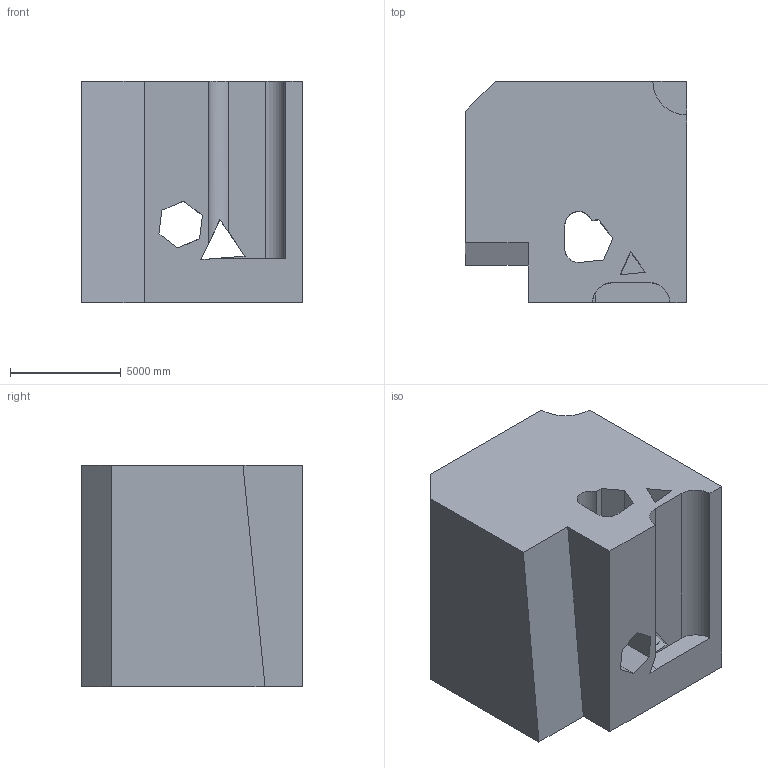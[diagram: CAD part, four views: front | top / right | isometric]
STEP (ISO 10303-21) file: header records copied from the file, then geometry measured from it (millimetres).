
FILE_DESCRIPTION (( 'STEP AP203' ), '1' );
FILE_NAME ('1998.STEP', '2022-08-23T10:26:11', ( 'user' ), ( '' ), 'SwSTEP 2.0', 'SolidWorks 2021', '' );
FILE_SCHEMA (( 'CONFIG_CONTROL_DESIGN' ));
Length unit declared in the file: centimetre
Products named in the file (1): 1998
Bounding box: 10000 x 10000 x 10000 mm (x, y, z)
Volume: 793289284185.8 mm3; surface area: 815219139.3 mm2
Topology: 1 solids, 1 shells, 50 faces, 156 edges, 104 vertices
Faces by surface type: plane 39, cylinder 11
Entity records: 1819 total; most frequent: CARTESIAN_POINT 347, ORIENTED_EDGE 312, DIRECTION 264, EDGE_CURVE 156, VECTOR 126, LINE 126, VERTEX_POINT 104, AXIS2_PLACEMENT_3D 69
